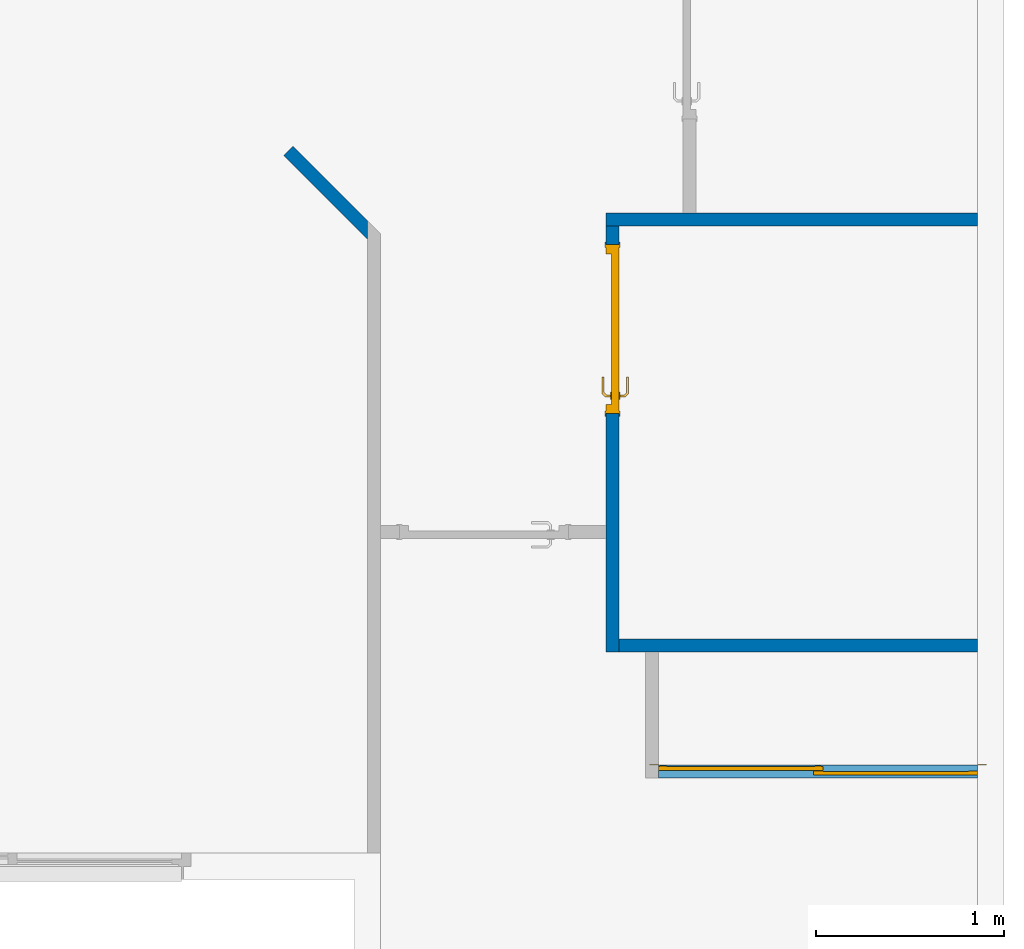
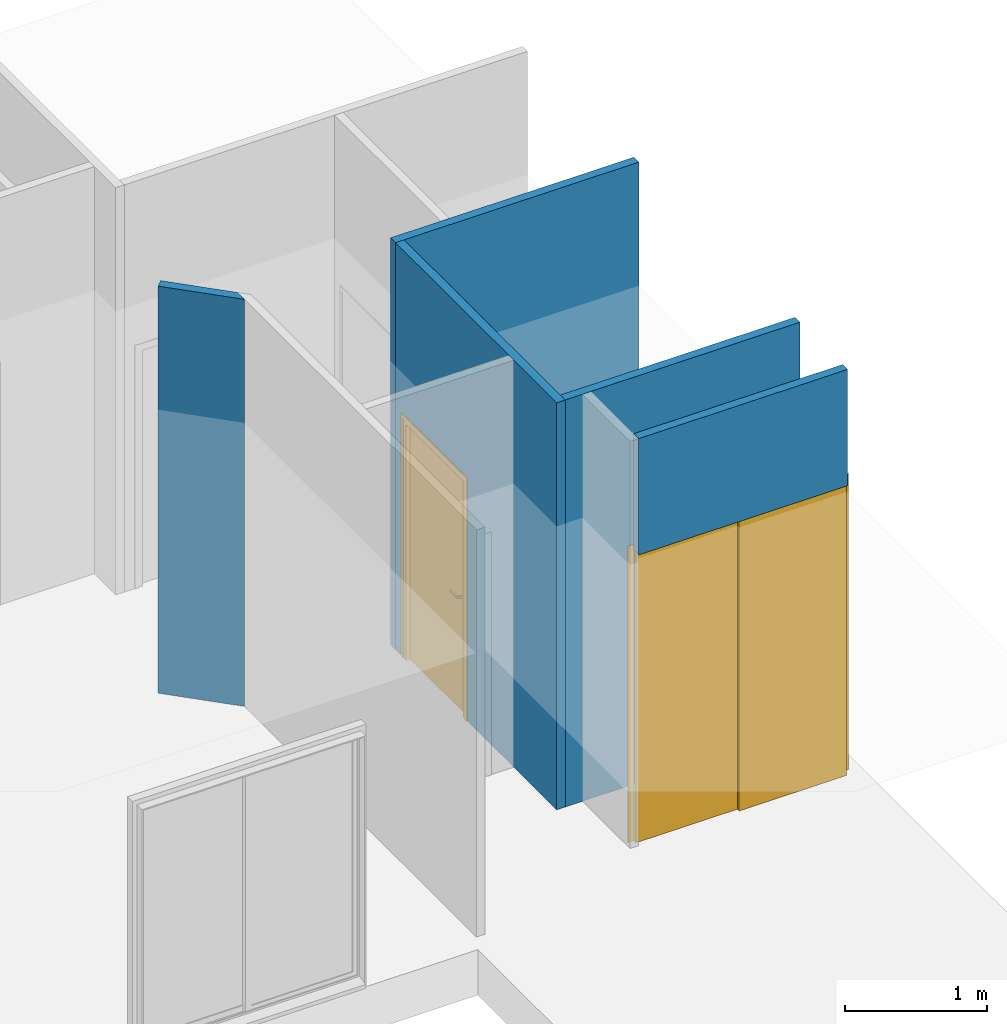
# One storey, part 2 of 7: 5 walls, 2 doors, 2 openings.
"""IFC2X3 building model written with IfcOpenShell, lengths in centimetres."""

from ifc_helpers import new_model, entity, si_unit, converted_unit, derived_unit, direction, frame, frame_2d, origin, origin_2d_with_axis, place, context, subcontext, project, spatial, polyline, circle_curve, parameter, trimmed, segment, composite_curve, rectangle, outline, extrude, faceted_brep, source, transform, mapped, material, material_list, layer, layer_set, layer_usage, type_object, type_shapes, element, fill, save


model = new_model("IFC2X3")

# Units and contexts
model_context = context("Model", 3, precision=0.001, world=origin(), true_north=direction((6.123031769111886e-17, 1.0)))
body_context = subcontext(model_context, "Body", "Model", "MODEL_VIEW")
ifc_project = project(units=[si_unit("LENGTHUNIT", "METRE", prefix="CENTI"), si_unit("AREAUNIT", "SQUARE_METRE"), si_unit("VOLUMEUNIT", "CUBIC_METRE"), converted_unit("PLANEANGLEUNIT", "DEGREE", entity("IfcRatioMeasure", 0.017453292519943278), si_unit("PLANEANGLEUNIT", "RADIAN"), dimensions=[0, 0, 0, 0, 0, 0, 0]), si_unit("MASSUNIT", "GRAM", prefix="KILO"), derived_unit("MASSDENSITYUNIT", [(si_unit("MASSUNIT", "GRAM", prefix="KILO"), 1), (si_unit("LENGTHUNIT", "METRE"), -3)]), derived_unit("MOMENTOFINERTIAUNIT", [(si_unit("LENGTHUNIT", "METRE"), 4)]), si_unit("TIMEUNIT", "SECOND"), si_unit("FREQUENCYUNIT", "HERTZ"), si_unit("THERMODYNAMICTEMPERATUREUNIT", "DEGREE_CELSIUS"), derived_unit("THERMALTRANSMITTANCEUNIT", [(si_unit("MASSUNIT", "GRAM", prefix="KILO"), 1), (si_unit("THERMODYNAMICTEMPERATUREUNIT", "KELVIN"), -1), (si_unit("TIMEUNIT", "SECOND"), -3)]), derived_unit("THERMALCONDUCTANCEUNIT", [(si_unit("MASSUNIT", "GRAM", prefix="KILO"), 1), (si_unit("LENGTHUNIT", "METRE"), 1), (si_unit("THERMODYNAMICTEMPERATUREUNIT", "KELVIN"), -1), (si_unit("TIMEUNIT", "SECOND"), -3)]), derived_unit("VOLUMETRICFLOWRATEUNIT", [(si_unit("LENGTHUNIT", "METRE"), 3), (si_unit("TIMEUNIT", "SECOND"), -1)]), derived_unit("MASSFLOWRATEUNIT", [(si_unit("MASSUNIT", "GRAM", prefix="KILO"), 1), (si_unit("TIMEUNIT", "SECOND"), -1)]), derived_unit("ROTATIONALFREQUENCYUNIT", [(si_unit("TIMEUNIT", "SECOND"), -1)]), si_unit("ELECTRICCURRENTUNIT", "AMPERE"), si_unit("ELECTRICVOLTAGEUNIT", "VOLT"), si_unit("POWERUNIT", "WATT"), si_unit("FORCEUNIT", "NEWTON", prefix="KILO"), si_unit("ILLUMINANCEUNIT", "LUX"), si_unit("LUMINOUSFLUXUNIT", "LUMEN"), si_unit("LUMINOUSINTENSITYUNIT", "CANDELA"), derived_unit("USERDEFINED", [(si_unit("MASSUNIT", "GRAM", prefix="KILO"), -1), (si_unit("LENGTHUNIT", "METRE"), -2), (si_unit("TIMEUNIT", "SECOND"), 3), (si_unit("LUMINOUSFLUXUNIT", "LUMEN"), 1)]), derived_unit("USERDEFINED", [(si_unit("MASSUNIT", "GRAM", prefix="KILO"), 1), (si_unit("LENGTHUNIT", "METRE"), 3), (si_unit("TIMEUNIT", "SECOND"), -3), (si_unit("ELECTRICCURRENTUNIT", "AMPERE"), -2)]), derived_unit("USERDEFINED", [(si_unit("LENGTHUNIT", "METRE"), 2), (si_unit("TIMEUNIT", "SECOND"), -2)]), derived_unit("SOUNDPOWERUNIT", [(si_unit("MASSUNIT", "GRAM", prefix="KILO"), 1), (si_unit("LENGTHUNIT", "METRE"), 2), (si_unit("TIMEUNIT", "SECOND"), -3)]), derived_unit("SOUNDPRESSUREUNIT", [(si_unit("MASSUNIT", "GRAM", prefix="KILO"), 1), (si_unit("LENGTHUNIT", "METRE"), -1), (si_unit("TIMEUNIT", "SECOND"), -2)]), derived_unit("LINEARVELOCITYUNIT", [(si_unit("LENGTHUNIT", "METRE"), 1), (si_unit("TIMEUNIT", "SECOND"), -1)]), si_unit("PRESSUREUNIT", "PASCAL"), derived_unit("USERDEFINED", [(si_unit("LENGTHUNIT", "METRE"), -2), (si_unit("MASSUNIT", "GRAM", prefix="KILO"), 1), (si_unit("TIMEUNIT", "SECOND"), -2)]), derived_unit("LINEARFORCEUNIT", [(si_unit("MASSUNIT", "GRAM", prefix="KILO"), 1), (si_unit("LENGTHUNIT", "METRE"), 1), (si_unit("TIMEUNIT", "SECOND"), -2), (si_unit("LENGTHUNIT", "METRE"), -1)]), derived_unit("PLANARFORCEUNIT", [(si_unit("MASSUNIT", "GRAM", prefix="KILO"), 1), (si_unit("LENGTHUNIT", "METRE"), 1), (si_unit("TIMEUNIT", "SECOND"), -2), (si_unit("LENGTHUNIT", "METRE"), -2)]), derived_unit("SPECIFICHEATCAPACITYUNIT", [(si_unit("LENGTHUNIT", "METRE"), 2), (si_unit("TIMEUNIT", "SECOND"), -2), (si_unit("THERMODYNAMICTEMPERATUREUNIT", "KELVIN"), -1)]), derived_unit("VAPORPERMEABILITYUNIT", [(si_unit("TIMEUNIT", "SECOND"), 1), (si_unit("LENGTHUNIT", "METRE"), -1)]), derived_unit("DYNAMICVISCOSITYUNIT", [(si_unit("MASSUNIT", "GRAM", prefix="KILO"), 1), (si_unit("LENGTHUNIT", "METRE"), -1), (si_unit("TIMEUNIT", "SECOND"), -1)]), derived_unit("THERMALEXPANSIONCOEFFICIENTUNIT", [(si_unit("THERMODYNAMICTEMPERATUREUNIT", "KELVIN"), -1)])], contexts=[model_context])

# Site, building, storey
site_placement = place(None, origin())
site = spatial("IfcSite", under=ifc_project, at=site_placement, Name="Default", CompositionType="ELEMENT")
building_placement = place(site_placement, origin())
building = spatial("IfcBuilding", under=site, at=building_placement, CompositionType="ELEMENT")
storey_placement = place(building_placement, origin())
storey = spatial("IfcBuildingStorey", under=building, at=storey_placement, Name="1_Rez-de-chaussée", CompositionType="ELEMENT", Elevation=0.0)

# Wall
ifc_material_1 = material(Name="Mur par défaut")
ifc_layer = layer(ifc_material_1, 7.0)
ifc_layer_set = layer_set([ifc_layer], Name="Mur de base:Int. plâtre 70 mm")
ifc_layer_usage = layer_usage(ifc_layer_set, "AXIS2", "NEGATIVE", 3.4999999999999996)
wall_type = type_object("IfcWallType", Name="Mur de base:Int. plâtre 70 mm", PredefinedType="STANDARD", material=ifc_layer_set)
wall_1_placement = place(storey_placement, frame((183.931556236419, -147.85335412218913, 0.0)))
element("IfcWallStandardCase", 1, at=wall_1_placement, inside=storey, type_object=wall_type, material=ifc_layer_usage, Name="Mur de base:Int. plâtre 70 mm", ObjectType="Mur de base:Int. plâtre 70 mm", context=body_context, shape_type="SweptSolid", body=[
    extrude(rectangle(XDim=197.9999999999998, YDim=6.999999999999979, at=frame_2d((98.9999999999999, 3.9968028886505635e-15), x_axis=(-1.0, 0.0))), origin(), (0.0, 0.0, 1.0), 350.00000000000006),
])

# Wall, opening, door
wall_2_placement = place(storey_placement, frame((187.431556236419, -151.35335412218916, 0.0), z_axis=(0.0, 0.0, 1.0), x_axis=(0.0, -1.0, 0.0)))
wall_2 = element("IfcWallStandardCase", 2, at=wall_2_placement, inside=storey, type_object=wall_type, material=ifc_layer_usage, Name="Mur de base:Int. plâtre 70 mm", ObjectType="Mur de base:Int. plâtre 70 mm", context=body_context, shape_type="SweptSolid", body=[
    extrude(rectangle(XDim=226.99999999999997, YDim=7.000000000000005, at=frame_2d((113.49999999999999, -1.4654943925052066e-14), x_axis=(1.0, 0.0))), origin(), (0.0, 0.0, 1.0), 350.0),
])
opening_1_placement = place(wall_2_placement, frame((10.0, -3.500000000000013, 0.0)))
opening_1 = element("IfcOpeningElement", 3, at=opening_1_placement, cuts=wall_2, Name="Int. Simple:PP (0.83m x 2.04m):1", ObjectType="Opening", context=body_context, shape_type="SweptSolid", body=[
    extrude(rectangle(XDim=207.49999999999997, YDim=90.0, at=frame_2d((103.74999999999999, 45.0), x_axis=(1.0, 0.0))), frame((0.0, 0.0, 0.0), z_axis=(0.0, 1.0, 0.0), x_axis=(0.0, 0.0, 1.0)), (0.0, 0.0, 1.0), 6.999999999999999),
])
ifc_material_2 = material(Name="Finition Peinture - Blanc satiné")
ifc_material_3 = material(Name="Bois - Panneau de porte")
ifc_material_4 = material(Name="Bois - Cadre de porte")
ifc_material_list_1 = material_list([ifc_material_2, ifc_material_3, ifc_material_4])
door_style_1 = type_object("IfcDoorStyle", Name="Int. Simple:PP (0.83m x 2.04m)", ConstructionType="NOTDEFINED", OperationType="NOTDEFINED", ParameterTakesPrecedence=False, Sizeable=False, material=ifc_material_list_1)
shared_shape_1 = source(origin(), body_context, "Body", "Brep", [
    faceted_brep([(10.535276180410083, -0.5000000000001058, 86.6003983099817), (11.499999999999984, -0.500000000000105, 87.0), (11.499999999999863, -0.500000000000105, 108.0), (10.535276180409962, -0.5000000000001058, 108.39960169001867), (9.499999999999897, -0.5000000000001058, 108.5358983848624), (8.46472381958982, -0.5000000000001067, 108.39960169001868), (7.499999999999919, -0.5000000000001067, 108.0), (7.500000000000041, -0.5000000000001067, 87.0), (8.464723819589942, -0.5000000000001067, 86.6003983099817), (9.500000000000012, -0.5000000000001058, 86.46410161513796), (10.535276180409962, 0.0, 108.39960169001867), (11.499999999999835, 0.0, 108.0), (11.499999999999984, 0.0, 87.0), (10.535276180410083, 0.0, 86.6003983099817), (9.500000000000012, 0.0, 86.46410161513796), (8.464723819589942, 0.0, 86.6003983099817), (7.499999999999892, 0.0, 87.0), (7.499999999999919, 0.0, 108.0), (8.46472381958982, 0.0, 108.39960169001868), (9.499999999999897, 0.0, 108.5358983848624)], [[[0, 1, 2, 3, 4, 5, 6, 7, 8, 9]], [[10, 11, 12, 13, 14, 15, 16, 17, 18, 19]], [[16, 15, 8, 7]], [[8, 15, 14, 9]], [[14, 13, 0, 9]], [[13, 12, 1, 0]], [[2, 1, 12, 11]], [[11, 10, 3, 2]], [[3, 10, 19, 4]], [[19, 18, 5, 4]], [[18, 17, 6, 5]], [[7, 6, 17, 16]]]),
    faceted_brep([(10.535276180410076, 4.0, 86.6003983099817), (11.499999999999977, 4.0, 87.0), (11.499999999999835, 4.0, 108.0), (10.535276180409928, 4.0, 108.39960169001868), (9.499999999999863, 4.0, 108.5358983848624), (8.4647238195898, 4.0, 108.39960169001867), (7.499999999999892, 4.0, 108.0), (7.500000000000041, 4.0, 87.0), (8.464723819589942, 4.0, 86.60039830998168), (9.500000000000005, 4.0, 86.46410161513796), (10.535276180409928, 4.4999999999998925, 108.39960169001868), (11.49999999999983, 4.499999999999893, 108.0), (11.499999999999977, 4.499999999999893, 87.0), (10.535276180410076, 4.4999999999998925, 86.6003983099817), (9.500000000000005, 4.4999999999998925, 86.46410161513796), (8.464723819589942, 4.4999999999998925, 86.60039830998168), (7.499999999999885, 4.499999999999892, 87.0), (7.499999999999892, 4.499999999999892, 108.0), (8.4647238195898, 4.4999999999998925, 108.39960169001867), (9.499999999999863, 4.4999999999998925, 108.5358983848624)], [[[0, 1, 2, 3, 4, 5, 6, 7, 8, 9]], [[10, 11, 12, 13, 14, 15, 16, 17, 18, 19]], [[11, 10, 3, 2]], [[3, 10, 19, 4]], [[19, 18, 5, 4]], [[18, 17, 6, 5]], [[7, 6, 17, 16]], [[16, 15, 8, 7]], [[8, 15, 14, 9]], [[14, 13, 0, 9]], [[13, 12, 1, 0]], [[2, 1, 12, 11]]]),
    faceted_brep([(9.297470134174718, -0.5000000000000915, 100.77804408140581), (9.702529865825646, -0.5000000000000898, 100.77804408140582), (10.100000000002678, -0.500000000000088, 100.6999999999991), (10.100000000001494, -0.500000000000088, 99.30000000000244), (9.702529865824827, -0.5000000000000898, 99.22195591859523), (9.297470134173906, -0.5000000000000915, 99.221955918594), (8.899999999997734, -0.5000000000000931, 99.29999999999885), (8.89999999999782, -0.5000000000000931, 100.69999999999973), (8.899999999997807, -3.265095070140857, 100.69999999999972), (9.297470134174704, -3.100457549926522, 100.77804408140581), (10.902358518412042, -4.705345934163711, 100.77804408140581), (11.070139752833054, -4.300286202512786, 100.77804408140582), (9.702529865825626, -2.932676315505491, 100.77804408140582), (10.100000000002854, -2.768038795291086, 100.69999999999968), (10.100000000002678, -2.7680387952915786, 99.30000000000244), (9.702529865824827, -2.932676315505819, 99.22195591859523), (11.070139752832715, -4.300286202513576, 99.22195591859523), (10.902358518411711, -4.7053459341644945, 99.221955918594), (9.297470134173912, -3.100457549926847, 99.221955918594), (8.899999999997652, -3.265095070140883, 99.29999999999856), (10.73772099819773, -5.102816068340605, 100.69999999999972), (11.234777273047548, -3.902816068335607, 100.69999999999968), (11.23477727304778, -3.9028160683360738, 99.30000000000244), (10.737720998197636, -5.102816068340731, 99.29999999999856), (19.501864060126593, -5.102816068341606, 99.2999999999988), (19.50186406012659, -4.705345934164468, 99.22195591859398), (19.50186406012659, -4.300286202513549, 99.2219559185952), (19.50186406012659, -3.9028160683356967, 99.30000000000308), (19.501864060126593, -3.9028160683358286, 100.69999999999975), (19.501864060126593, -4.30028620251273, 100.7780440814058), (19.501864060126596, -4.705345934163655, 100.77804408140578), (19.501864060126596, -5.102816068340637, 100.69999999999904), (14.730769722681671, -5.102816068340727, 100.69999999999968), (15.286001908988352, -4.502816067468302, 100.7878686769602), (15.368320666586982, -3.9028160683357, 100.6999999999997), (15.368320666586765, -3.902816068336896, 99.30000000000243), (15.28600188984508, -4.502816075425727, 99.21213132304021), (14.730770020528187, -5.1028160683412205, 99.2999999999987)], [[[0, 1, 2, 3, 4, 5, 6, 7]], [[8, 9, 0, 7]], [[9, 10, 11, 12, 1, 0]], [[12, 13, 2, 1]], [[3, 2, 13, 14]], [[14, 15, 4, 3]], [[15, 16, 17, 18, 5, 4]], [[18, 19, 6, 5]], [[7, 6, 19, 8]], [[20, 10, 9, 8]], [[11, 21, 13, 12]], [[14, 13, 21, 22]], [[22, 16, 15, 14]], [[17, 23, 19, 18]], [[8, 19, 23, 20]], [[24, 25, 26, 27, 28, 29, 30, 31]], [[32, 30, 33]], [[31, 30, 32]], [[10, 20, 32]], [[33, 34, 11]], [[21, 11, 34]], [[34, 29, 28]], [[30, 29, 33]], [[29, 34, 33]], [[10, 32, 33]], [[10, 33, 11]], [[22, 21, 34, 28, 27, 35]], [[35, 26, 36]], [[37, 36, 25]], [[22, 35, 16]], [[35, 27, 26]], [[24, 37, 25]], [[23, 17, 37]], [[37, 17, 36]], [[17, 16, 36]], [[16, 35, 36]], [[25, 36, 26]], [[20, 23, 37, 24, 31, 32]]]),
    faceted_brep([(9.297470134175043, 4.499999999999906, 100.77804408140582), (8.899999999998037, 4.499999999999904, 100.69999999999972), (8.899999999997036, 4.499999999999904, 99.29999999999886), (9.297470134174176, 4.499999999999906, 99.22195591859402), (9.702529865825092, 4.499999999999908, 99.22195591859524), (10.100000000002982, 4.499999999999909, 99.30000000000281), (10.100000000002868, 4.499999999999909, 100.69999999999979), (9.702529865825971, 4.499999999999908, 100.77804408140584), (10.10000000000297, 6.748520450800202, 99.30000000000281), (10.100000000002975, 6.748520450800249, 100.69999999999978), (9.70252986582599, 6.913157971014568, 100.77804408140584), (11.083890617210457, 8.294518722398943, 100.77804408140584), (10.916109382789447, 8.69957845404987, 100.77804408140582), (9.297470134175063, 7.080939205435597, 100.77804408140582), (8.899999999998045, 7.245576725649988, 100.69999999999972), (8.899999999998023, 7.245576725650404, 99.29999999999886), (9.29747013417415, 7.080939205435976, 99.22195591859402), (10.916109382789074, 8.69957845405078, 99.22195591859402), (11.083890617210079, 8.294518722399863, 99.22195591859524), (9.70252986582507, 6.91315797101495, 99.22195591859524), (11.248528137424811, 7.897048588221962, 99.30000000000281), (11.248528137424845, 7.897048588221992, 100.69999999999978), (10.751471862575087, 9.097048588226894, 100.69999999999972), (10.751471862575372, 9.097048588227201, 99.29999999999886), (19.504578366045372, 7.89704858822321, 99.30000000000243), (19.50457836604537, 8.294518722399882, 99.22195591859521), (19.50457836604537, 8.699578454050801, 99.22195591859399), (19.50457836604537, 9.097048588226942, 99.29999999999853), (19.504578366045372, 9.097048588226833, 100.69999999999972), (19.504578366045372, 8.699578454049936, 100.7780440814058), (19.504578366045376, 8.29451872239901, 100.77804408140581), (19.504578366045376, 7.897048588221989, 100.69999999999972), (15.376552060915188, 7.897048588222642, 99.3000000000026), (15.376553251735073, 7.897048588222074, 100.69999999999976), (15.294234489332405, 8.497048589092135, 100.78786867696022), (14.744520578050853, 9.097048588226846, 100.69999999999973), (14.744520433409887, 9.097048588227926, 99.29999999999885), (15.29423451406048, 8.497048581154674, 99.21213132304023)], [[[0, 1, 2, 3, 4, 5, 6, 7]], [[6, 5, 8, 9]], [[9, 10, 7, 6]], [[10, 11, 12, 13, 0, 7]], [[13, 14, 1, 0]], [[2, 1, 14, 15]], [[15, 16, 3, 2]], [[16, 17, 18, 19, 4, 3]], [[19, 8, 5, 4]], [[9, 8, 20, 21]], [[21, 11, 10, 9]], [[12, 22, 14, 13]], [[15, 14, 22, 23]], [[23, 17, 16, 15]], [[18, 20, 8, 19]], [[24, 25, 26, 27, 28, 29, 30, 31]], [[21, 20, 32, 24, 31, 33]], [[33, 30, 34]], [[35, 34, 29]], [[21, 33, 11]], [[33, 31, 30]], [[28, 35, 29]], [[22, 12, 35]], [[35, 12, 34]], [[12, 11, 34]], [[11, 33, 34]], [[29, 34, 30]], [[22, 35, 28, 27, 36, 23]], [[36, 26, 37]], [[27, 26, 36]], [[17, 23, 36]], [[37, 32, 18]], [[20, 18, 32]], [[32, 25, 24]], [[26, 25, 37]], [[25, 32, 37]], [[17, 36, 37]], [[17, 37, 18]]]),
    faceted_brep([(3.4999999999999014, 4.0, 204.0), (86.49999999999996, 4.0, 204.0), (86.4999999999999, 4.0, 0.0), (3.4999999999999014, 4.0, 0.0), (3.4999999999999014, 0.0, 204.0), (3.4999999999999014, 0.0, 0.0), (86.4999999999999, 0.0, 0.0), (86.49999999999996, 0.0, 204.0)], [[[0, 1, 2, 3]], [[4, 5, 6, 7]], [[1, 0, 4, 7]], [[2, 1, 7, 6]], [[3, 2, 6, 5]], [[0, 3, 5, 4]]]),
    faceted_brep([(0.0, 0.0, 0.0), (0.0, 7.0, 0.0), (5.0, 7.0, 0.0), (5.0, 4.0, 0.0), (3.499999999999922, 4.0, 0.0), (3.499999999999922, 0.0, 0.0), (0.0, 0.0, 207.5000000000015), (0.0, 7.0, 207.50000000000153), (90.0, 7.0, 207.5000000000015), (90.0, 7.0, 0.0), (85.0, 7.0, 0.0), (85.0, 7.0, 202.4999999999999), (5.0, 7.0, 202.4999999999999), (5.0, 4.0, 202.4999999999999), (85.0, 4.0, 202.4999999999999), (85.0, 4.0, 0.0), (86.50000000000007, 4.0, 0.0), (86.50000000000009, 4.0, 204.0), (3.499999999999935, 4.0, 204.0), (3.499999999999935, 0.0, 204.0), (86.50000000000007, 0.0, 204.0), (86.50000000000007, 0.0, 0.0), (90.0, 0.0, 0.0), (90.0, 0.0, 207.5000000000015)], [[[0, 1, 2, 3, 4, 5]], [[1, 0, 6, 7]], [[2, 1, 7, 8, 9, 10, 11, 12]], [[3, 2, 12, 13]], [[4, 3, 13, 14, 15, 16, 17, 18]], [[5, 4, 18, 19]], [[0, 5, 19, 20, 21, 22, 23, 6]], [[8, 23, 22, 9]], [[22, 21, 16, 15, 10, 9]], [[14, 11, 10, 15]], [[20, 17, 16, 21]], [[7, 6, 23, 8]], [[13, 12, 11, 14]], [[19, 18, 17, 20]]]),
    faceted_brep([(1.4999999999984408, 7.0, 0.0), (-1.500000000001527, 7.0, 0.0), (-1.500000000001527, 7.499999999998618, 0.0), (1.4999999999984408, 7.499999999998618, 0.0), (1.4999999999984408, 7.0, 206.0), (88.49999999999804, 7.0, 206.0), (88.49999999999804, 7.0, 0.0), (91.49999999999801, 7.0, 0.0), (91.49999999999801, 7.0, 209.0), (-1.500000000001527, 7.0, 209.0), (-1.500000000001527, 7.499999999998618, 209.0), (91.49999999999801, 7.499999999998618, 209.0), (91.49999999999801, 7.499999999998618, 0.0), (88.49999999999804, 7.499999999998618, 0.0), (88.49999999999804, 7.499999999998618, 206.0), (1.4999999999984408, 7.499999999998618, 206.0)], [[[0, 1, 2, 3]], [[1, 0, 4, 5, 6, 7, 8, 9]], [[2, 1, 9, 10]], [[3, 2, 10, 11, 12, 13, 14, 15]], [[0, 3, 15, 4]], [[6, 13, 12, 7]], [[5, 14, 13, 6]], [[11, 8, 7, 12]], [[10, 9, 8, 11]], [[4, 15, 14, 5]]]),
    faceted_brep([(-1.500000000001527, -0.4999999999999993, 0.0), (1.4999999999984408, -0.4999999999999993, 0.0), (1.4999999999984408, -0.4999999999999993, 206.0), (88.49999999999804, -0.4999999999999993, 206.0), (88.49999999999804, -0.4999999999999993, 0.0), (91.49999999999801, -0.4999999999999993, 0.0), (91.49999999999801, -0.4999999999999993, 209.0), (-1.500000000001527, -0.4999999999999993, 209.0), (-1.500000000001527, 0.0, 0.0), (-1.500000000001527, 0.0, 209.0), (1.4999999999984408, 0.0, 0.0), (91.49999999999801, 0.0, 209.0), (91.49999999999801, 0.0, 0.0), (88.49999999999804, 0.0, 0.0), (88.49999999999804, 0.0, 206.0), (1.4999999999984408, 0.0, 206.0)], [[[0, 1, 2, 3, 4, 5, 6, 7]], [[8, 0, 7, 9]], [[10, 8, 9, 11, 12, 13, 14, 15]], [[1, 10, 15, 2]], [[3, 14, 13, 4]], [[11, 6, 5, 12]], [[9, 7, 6, 11]], [[2, 15, 14, 3]], [[4, 13, 12, 5]], [[1, 0, 8, 10]]]),
])
type_shapes(door_style_1, [shared_shape_1])
door_1_placement = place(opening_1_placement, frame((90.0, 7.0, 0.0), z_axis=(0.0, 0.0, 1.0), x_axis=(-1.0, 0.0, 0.0)))
door_1 = element("IfcDoor", 4, at=door_1_placement, inside=storey, type_object=door_style_1, material=ifc_material_list_1, Name="Int. Simple:PP (0.83m x 2.04m)", ObjectType="Int. Simple:PP (0.83m x 2.04m)", OverallHeight=207.49999999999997, OverallWidth=90.0, context=body_context, shape_type="MappedRepresentation", body=[
    mapped(shared_shape_1, transform((0.0, 0.0, 0.0), scale=1.0)),
])
fill(opening_1, door_1)

# Wall
wall_3_placement = place(storey_placement, frame((190.93155623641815, -374.85335412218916, 0.0)))
element("IfcWallStandardCase", 5, at=wall_3_placement, inside=storey, type_object=wall_type, material=ifc_layer_usage, Name="Mur de base:Int. plâtre 70 mm", ObjectType="Mur de base:Int. plâtre 70 mm", context=body_context, shape_type="SweptSolid", body=[
    extrude(rectangle(XDim=190.99999999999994, YDim=7.000000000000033, at=frame_2d((95.49999999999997, -9.547918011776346e-15), x_axis=(-1.0, 0.0))), origin(), (0.0, 0.0, 1.0), 350.0),
])

# Wall, opening, door
wall_4_placement = place(storey_placement, frame((211.93155623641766, -441.8533541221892, 250.0)))
wall_4 = element("IfcWallStandardCase", 6, at=wall_4_placement, inside=storey, type_object=wall_type, material=ifc_layer_usage, Name="Mur de base:Int. plâtre 70 mm", ObjectType="Mur de base:Int. plâtre 70 mm", context=body_context, shape_type="SweptSolid", body=[
    extrude(rectangle(XDim=170.00000000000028, YDim=7.000000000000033, at=frame_2d((85.00000000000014, -3.552713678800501e-15), x_axis=(-1.0, 0.0))), origin(), (0.0, 0.0, 1.0), 100.00000000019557),
])
opening_2_placement = place(wall_4_placement, frame((0.0, -3.500000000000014, -250.0)))
opening_2 = element("IfcOpeningElement", 7, at=opening_2_placement, cuts=wall_4, Name="Placard coulissante - 2 panneaux:PL coulissante - 2 panneaux 170/250:1", ObjectType="Opening", context=body_context, shape_type="SweptSolid", body=[
    extrude(rectangle(XDim=249.9999999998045, YDim=169.99999999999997, at=frame_2d((124.99999999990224, 85.00000000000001), x_axis=(1.0, 0.0))), frame((0.0, 0.0, 0.0), z_axis=(0.0, 1.0, 0.0), x_axis=(0.0, 0.0, 1.0)), (0.0, 0.0, 1.0), 6.999999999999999),
])
ifc_material_5 = material(Name="Placard - Profil")
ifc_material_6 = material(Name="Placard - Encadrement")
ifc_material_7 = material(Name="Placard - Porte")
ifc_material_list_2 = material_list([ifc_material_5, ifc_material_6, ifc_material_7])
door_style_2 = type_object("IfcDoorStyle", Name="Placard coulissante - 2 panneaux:PL coulissante - 2 panneaux 170/250", ConstructionType="NOTDEFINED", OperationType="SLIDING_TO_RIGHT", ParameterTakesPrecedence=False, Sizeable=False, material=ifc_material_list_2)
shared_shape_2 = source(origin(), body_context, "Body", "SweptSolid", [
    extrude(outline(composite_curve([segment(polyline([(-2.5000000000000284, -0.10000000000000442), (2.4999999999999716, -0.10000000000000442)]), True, "CONTINUOUS"), segment(polyline([(2.4999999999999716, -0.10000000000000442), (2.4999999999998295, 0.10000000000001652)]), True, "CONTINUOUS"), segment(trimmed(circle_curve(frame_2d((0.0, -21.286038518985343), x_axis=(-1.0, 0.0)), 21.531666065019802), [parameter(263.3324595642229)], [parameter(276.66754043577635)], True, "PARAMETER"), True, "CONTINUOUS"), segment(polyline([(-2.5000000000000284, 0.10000000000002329), (-2.5000000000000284, -0.10000000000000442)]), True, "CONTINUOUS")], self_intersect=False)), frame((167.49999999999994, 0.8999999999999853, 0.0), z_axis=(0.0, 0.0, 1.0), x_axis=(-1.0, 0.0, 0.0)), (0.0, 0.0, 1.0), 250.0),
    extrude(outline(composite_curve([segment(polyline([(-2.5000000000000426, -0.10000000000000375), (2.4999999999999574, -0.10000000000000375)]), True, "CONTINUOUS"), segment(polyline([(2.4999999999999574, -0.10000000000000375), (2.4999999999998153, 0.10000000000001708)]), True, "CONTINUOUS"), segment(trimmed(circle_curve(frame_2d((0.0, -21.286038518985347), x_axis=(-1.0, 0.0)), 21.531666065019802), [parameter(263.3324595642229)], [parameter(276.66754043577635)], True, "PARAMETER"), True, "CONTINUOUS"), segment(polyline([(-2.5000000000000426, 0.10000000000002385), (-2.5000000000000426, -0.10000000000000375)]), True, "CONTINUOUS")], self_intersect=False)), frame((85.0, 0.9000000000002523, 0.0), z_axis=(0.0, 0.0, 1.0), x_axis=(-1.0, 0.0, 0.0)), (0.0, 0.0, 1.0), 250.0),
    extrude(outline(composite_curve([segment(polyline([(-2.5000000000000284, -0.10000000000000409), (2.4999999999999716, -0.10000000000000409)]), True, "CONTINUOUS"), segment(polyline([(2.4999999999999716, -0.10000000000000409), (2.4999999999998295, 0.10000000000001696)]), True, "CONTINUOUS"), segment(trimmed(circle_curve(frame_2d((0.0, -21.286038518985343), x_axis=(-1.0, 0.0)), 21.531666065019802), [parameter(263.3324595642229)], [parameter(276.66754043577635)], True, "PARAMETER"), True, "CONTINUOUS"), segment(polyline([(-2.5000000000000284, 0.10000000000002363), (-2.5000000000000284, -0.10000000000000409)]), True, "CONTINUOUS")], self_intersect=False)), frame((85.0, 3.400000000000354, 0.0), z_axis=(0.0, 0.0, 1.0), x_axis=(-1.0, 0.0, 0.0)), (0.0, 0.0, 1.0), 250.0),
    extrude(outline(composite_curve([segment(polyline([(-2.500000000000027, -0.10000000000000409), (2.499999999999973, -0.10000000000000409)]), True, "CONTINUOUS"), segment(polyline([(2.499999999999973, -0.10000000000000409), (2.499999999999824, 0.10000000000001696)]), True, "CONTINUOUS"), segment(trimmed(circle_curve(frame_2d((0.0, -21.286038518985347), x_axis=(-1.0, 0.0)), 21.531666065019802), [parameter(263.3324595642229)], [parameter(276.66754043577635)], True, "PARAMETER"), True, "CONTINUOUS"), segment(polyline([(-2.500000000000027, 0.10000000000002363), (-2.500000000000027, -0.10000000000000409)]), True, "CONTINUOUS")], self_intersect=False)), frame((2.499999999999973, 3.400000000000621, 0.0), z_axis=(0.0, 0.0, 1.0), x_axis=(-1.0, 0.0, 0.0)), (0.0, 0.0, 1.0), 250.0),
    extrude(outline(polyline([(-126.14999999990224, -89.79999999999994), (128.6499999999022, -89.79999999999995), (128.6499999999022, 89.79999999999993), (-126.14999999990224, 89.79999999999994), (-126.14999999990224, 84.79999999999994), (123.6499999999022, 84.79999999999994), (123.6499999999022, -84.79999999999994), (-126.14999999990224, -84.79999999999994), (-126.14999999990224, -89.79999999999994)])), frame((85.0, -0.300000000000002, 126.14999999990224), z_axis=(0.0, 1.0, 0.0), x_axis=(0.0, 0.0, 1.0)), (0.0, 0.0, 1.0), 0.30000000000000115),
    extrude(rectangle(XDim=2.000000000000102, YDim=87.50000000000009, at=origin_2d_with_axis()), frame((126.24999999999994, 2.0, 0.0), z_axis=(0.0, 0.0, 1.0), x_axis=(0.0, 1.0, 0.0)), (0.0, 0.0, 1.0), 250.0),
    extrude(rectangle(XDim=1.9999999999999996, YDim=87.49999999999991, at=origin_2d_with_axis()), frame((43.74999999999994, 4.500000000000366, 0.0), z_axis=(0.0, 0.0, 1.0), x_axis=(0.0, 1.0, 0.0)), (0.0, 0.0, 1.0), 250.0),
])
type_shapes(door_style_2, [shared_shape_2])
door_2_placement = place(opening_2_placement, frame((170.0, 7.0, 0.0), z_axis=(0.0, 0.0, 1.0), x_axis=(-1.0, 0.0, 0.0)))
door_2 = element("IfcDoor", 8, at=door_2_placement, inside=storey, type_object=door_style_2, material=ifc_material_list_2, Name="Placard coulissante - 2 panneaux:PL coulissante - 2 panneaux 170/250", ObjectType="Placard coulissante - 2 panneaux:PL coulissante - 2 panneaux 170/250", OverallHeight=249.9999999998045, OverallWidth=170.0, context=body_context, shape_type="MappedRepresentation", body=[
    mapped(shared_shape_2, transform((0.0, 0.0, 0.0), scale=1.0)),
])
fill(opening_2, door_2)

# Wall
wall_5_placement = place(storey_placement, frame((59.40642997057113, -155.9337835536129, 0.0), z_axis=(0.0, 0.0, 1.0), x_axis=(-0.7071067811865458, 0.7071067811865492, 0.0)))
element("IfcWallStandardCase", 9, at=wall_5_placement, inside=storey, type_object=wall_type, material=ifc_layer_usage, Name="Mur de base:Int. plâtre 70 mm", ObjectType="Mur de base:Int. plâtre 70 mm", context=body_context, shape_type="SweptSolid", body=[
    extrude(outline(polyline([(62.93250352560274, -3.4999999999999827), (62.93250352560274, 3.5000000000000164), (0.0, 3.500000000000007), (7.0, -3.499999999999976), (62.93250352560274, -3.4999999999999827)])), origin(), (0.0, 0.0, 1.0), 350.0),
])

save(model, "model.ifc")
